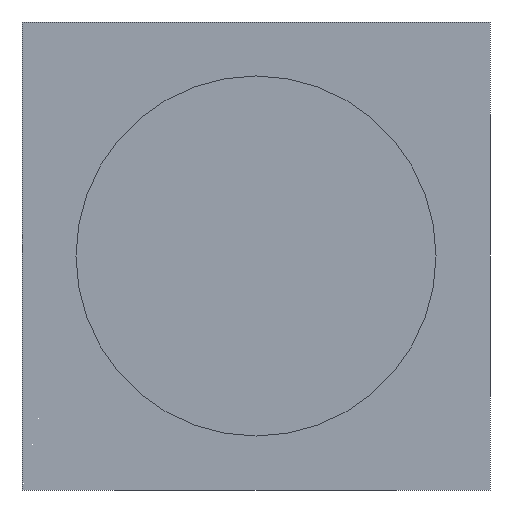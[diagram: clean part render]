
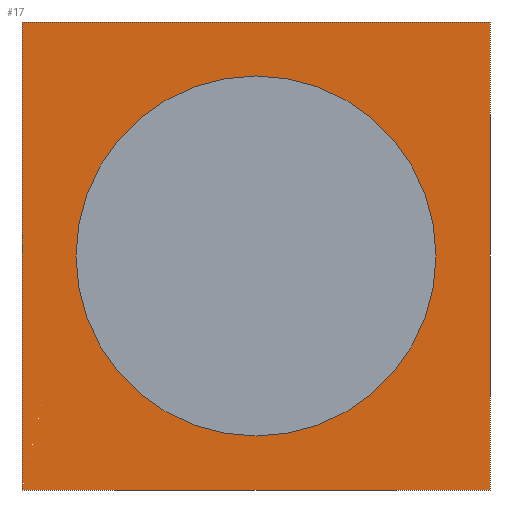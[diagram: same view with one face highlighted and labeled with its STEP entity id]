
A CAD part, front view. The second image highlights one B-rep face of the part: STEP entity #17.
In plain terms, the highlighted planar face has unit normal (0, -1, 0).
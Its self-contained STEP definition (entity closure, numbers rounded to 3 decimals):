
#17 = ADVANCED_FACE('',(#18,#137),#32,.F.);
#18 = FACE_BOUND('',#19,.F.);
#19 = EDGE_LOOP('',(#20,#55,#83,#111));
#20 = ORIENTED_EDGE('',*,*,#21,.F.);
#21 = EDGE_CURVE('',#22,#24,#26,.T.);
#22 = VERTEX_POINT('',#23);
#23 = CARTESIAN_POINT('',(-21.775,-85.913,-21.775));
#24 = VERTEX_POINT('',#25);
#25 = CARTESIAN_POINT('',(21.775,-85.913,-21.775));
#26 = SURFACE_CURVE('',#27,(#31,#43),.PCURVE_S1.);
#27 = LINE('',#28,#29);
#28 = CARTESIAN_POINT('',(-21.775,-85.913,-21.775));
#29 = VECTOR('',#30,1.);
#30 = DIRECTION('',(1.,0.,0.));
#31 = PCURVE('',#32,#37);
#32 = PLANE('',#33);
#33 = AXIS2_PLACEMENT_3D('',#34,#35,#36);
#34 = CARTESIAN_POINT('',(-21.775,-85.913,-21.775));
#35 = DIRECTION('',(0.,1.,0.));
#36 = DIRECTION('',(1.,0.,0.));
#37 = DEFINITIONAL_REPRESENTATION('',(#38),#42);
#38 = LINE('',#39,#40);
#39 = CARTESIAN_POINT('',(0.,0.));
#40 = VECTOR('',#41,1.);
#41 = DIRECTION('',(1.,0.));
#42 = ( GEOMETRIC_REPRESENTATION_CONTEXT(2) 
PARAMETRIC_REPRESENTATION_CONTEXT() REPRESENTATION_CONTEXT('2D SPACE',''
  ) );
#43 = PCURVE('',#44,#49);
#44 = PLANE('',#45);
#45 = AXIS2_PLACEMENT_3D('',#46,#47,#48);
#46 = CARTESIAN_POINT('',(-21.775,-85.913,-21.775));
#47 = DIRECTION('',(0.,0.,1.));
#48 = DIRECTION('',(1.,0.,0.));
#49 = DEFINITIONAL_REPRESENTATION('',(#50),#54);
#50 = LINE('',#51,#52);
#51 = CARTESIAN_POINT('',(0.,0.));
#52 = VECTOR('',#53,1.);
#53 = DIRECTION('',(1.,0.));
#54 = ( GEOMETRIC_REPRESENTATION_CONTEXT(2) 
PARAMETRIC_REPRESENTATION_CONTEXT() REPRESENTATION_CONTEXT('2D SPACE',''
  ) );
#55 = ORIENTED_EDGE('',*,*,#56,.T.);
#56 = EDGE_CURVE('',#22,#57,#59,.T.);
#57 = VERTEX_POINT('',#58);
#58 = CARTESIAN_POINT('',(-21.775,-85.913,21.775));
#59 = SURFACE_CURVE('',#60,(#64,#71),.PCURVE_S1.);
#60 = LINE('',#61,#62);
#61 = CARTESIAN_POINT('',(-21.775,-85.913,-21.775));
#62 = VECTOR('',#63,1.);
#63 = DIRECTION('',(0.,0.,1.));
#64 = PCURVE('',#32,#65);
#65 = DEFINITIONAL_REPRESENTATION('',(#66),#70);
#66 = LINE('',#67,#68);
#67 = CARTESIAN_POINT('',(0.,0.));
#68 = VECTOR('',#69,1.);
#69 = DIRECTION('',(0.,-1.));
#70 = ( GEOMETRIC_REPRESENTATION_CONTEXT(2) 
PARAMETRIC_REPRESENTATION_CONTEXT() REPRESENTATION_CONTEXT('2D SPACE',''
  ) );
#71 = PCURVE('',#72,#77);
#72 = PLANE('',#73);
#73 = AXIS2_PLACEMENT_3D('',#74,#75,#76);
#74 = CARTESIAN_POINT('',(-21.775,-85.913,-21.775));
#75 = DIRECTION('',(1.,0.,0.));
#76 = DIRECTION('',(0.,1.,0.));
#77 = DEFINITIONAL_REPRESENTATION('',(#78),#82);
#78 = LINE('',#79,#80);
#79 = CARTESIAN_POINT('',(0.,0.));
#80 = VECTOR('',#81,1.);
#81 = DIRECTION('',(0.,1.));
#82 = ( GEOMETRIC_REPRESENTATION_CONTEXT(2) 
PARAMETRIC_REPRESENTATION_CONTEXT() REPRESENTATION_CONTEXT('2D SPACE',''
  ) );
#83 = ORIENTED_EDGE('',*,*,#84,.T.);
#84 = EDGE_CURVE('',#57,#85,#87,.T.);
#85 = VERTEX_POINT('',#86);
#86 = CARTESIAN_POINT('',(21.775,-85.913,21.775));
#87 = SURFACE_CURVE('',#88,(#92,#99),.PCURVE_S1.);
#88 = LINE('',#89,#90);
#89 = CARTESIAN_POINT('',(-21.775,-85.913,21.775));
#90 = VECTOR('',#91,1.);
#91 = DIRECTION('',(1.,0.,0.));
#92 = PCURVE('',#32,#93);
#93 = DEFINITIONAL_REPRESENTATION('',(#94),#98);
#94 = LINE('',#95,#96);
#95 = CARTESIAN_POINT('',(0.,-43.55));
#96 = VECTOR('',#97,1.);
#97 = DIRECTION('',(1.,0.));
#98 = ( GEOMETRIC_REPRESENTATION_CONTEXT(2) 
PARAMETRIC_REPRESENTATION_CONTEXT() REPRESENTATION_CONTEXT('2D SPACE',''
  ) );
#99 = PCURVE('',#100,#105);
#100 = PLANE('',#101);
#101 = AXIS2_PLACEMENT_3D('',#102,#103,#104);
#102 = CARTESIAN_POINT('',(-21.775,-85.913,21.775));
#103 = DIRECTION('',(0.,0.,1.));
#104 = DIRECTION('',(1.,0.,0.));
#105 = DEFINITIONAL_REPRESENTATION('',(#106),#110);
#106 = LINE('',#107,#108);
#107 = CARTESIAN_POINT('',(0.,0.));
#108 = VECTOR('',#109,1.);
#109 = DIRECTION('',(1.,0.));
#110 = ( GEOMETRIC_REPRESENTATION_CONTEXT(2) 
PARAMETRIC_REPRESENTATION_CONTEXT() REPRESENTATION_CONTEXT('2D SPACE',''
  ) );
#111 = ORIENTED_EDGE('',*,*,#112,.F.);
#112 = EDGE_CURVE('',#24,#85,#113,.T.);
#113 = SURFACE_CURVE('',#114,(#118,#125),.PCURVE_S1.);
#114 = LINE('',#115,#116);
#115 = CARTESIAN_POINT('',(21.775,-85.913,-21.775));
#116 = VECTOR('',#117,1.);
#117 = DIRECTION('',(0.,0.,1.));
#118 = PCURVE('',#32,#119);
#119 = DEFINITIONAL_REPRESENTATION('',(#120),#124);
#120 = LINE('',#121,#122);
#121 = CARTESIAN_POINT('',(43.55,0.));
#122 = VECTOR('',#123,1.);
#123 = DIRECTION('',(0.,-1.));
#124 = ( GEOMETRIC_REPRESENTATION_CONTEXT(2) 
PARAMETRIC_REPRESENTATION_CONTEXT() REPRESENTATION_CONTEXT('2D SPACE',''
  ) );
#125 = PCURVE('',#126,#131);
#126 = PLANE('',#127);
#127 = AXIS2_PLACEMENT_3D('',#128,#129,#130);
#128 = CARTESIAN_POINT('',(21.775,-85.913,-21.775));
#129 = DIRECTION('',(1.,0.,0.));
#130 = DIRECTION('',(0.,1.,0.));
#131 = DEFINITIONAL_REPRESENTATION('',(#132),#136);
#132 = LINE('',#133,#134);
#133 = CARTESIAN_POINT('',(0.,0.));
#134 = VECTOR('',#135,1.);
#135 = DIRECTION('',(0.,1.));
#136 = ( GEOMETRIC_REPRESENTATION_CONTEXT(2) 
PARAMETRIC_REPRESENTATION_CONTEXT() REPRESENTATION_CONTEXT('2D SPACE',''
  ) );
#137 = FACE_BOUND('',#138,.F.);
#138 = EDGE_LOOP('',(#139));
#139 = ORIENTED_EDGE('',*,*,#140,.F.);
#140 = EDGE_CURVE('',#141,#141,#143,.T.);
#141 = VERTEX_POINT('',#142);
#142 = CARTESIAN_POINT('',(-16.75,-85.913,0.));
#143 = SURFACE_CURVE('',#144,(#149,#156),.PCURVE_S1.);
#144 = CIRCLE('',#145,16.75);
#145 = AXIS2_PLACEMENT_3D('',#146,#147,#148);
#146 = CARTESIAN_POINT('',(0.,-85.913,0.));
#147 = DIRECTION('',(0.,1.,0.));
#148 = DIRECTION('',(-1.,0.,0.));
#149 = PCURVE('',#32,#150);
#150 = DEFINITIONAL_REPRESENTATION('',(#151),#155);
#151 = CIRCLE('',#152,16.75);
#152 = AXIS2_PLACEMENT_2D('',#153,#154);
#153 = CARTESIAN_POINT('',(21.775,-21.775));
#154 = DIRECTION('',(-1.,0.));
#155 = ( GEOMETRIC_REPRESENTATION_CONTEXT(2) 
PARAMETRIC_REPRESENTATION_CONTEXT() REPRESENTATION_CONTEXT('2D SPACE',''
  ) );
#156 = PCURVE('',#157,#162);
#157 = CYLINDRICAL_SURFACE('',#158,16.75);
#158 = AXIS2_PLACEMENT_3D('',#159,#160,#161);
#159 = CARTESIAN_POINT('',(0.,-126.11,0.));
#160 = DIRECTION('',(0.,1.,0.));
#161 = DIRECTION('',(-1.,0.,0.));
#162 = DEFINITIONAL_REPRESENTATION('',(#163),#167);
#163 = LINE('',#164,#165);
#164 = CARTESIAN_POINT('',(0.,40.197));
#165 = VECTOR('',#166,1.);
#166 = DIRECTION('',(1.,0.));
#167 = ( GEOMETRIC_REPRESENTATION_CONTEXT(2) 
PARAMETRIC_REPRESENTATION_CONTEXT() REPRESENTATION_CONTEXT('2D SPACE',''
  ) );
